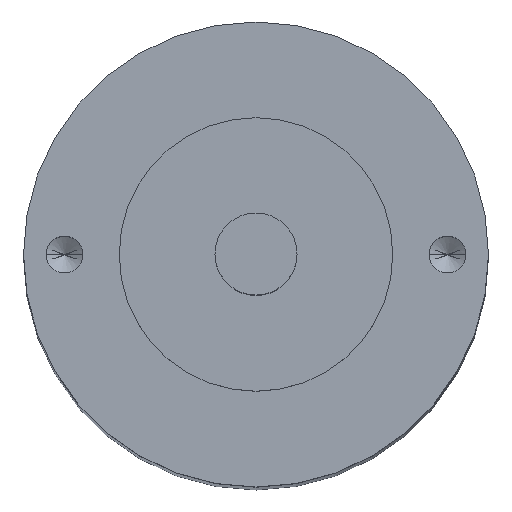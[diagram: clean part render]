
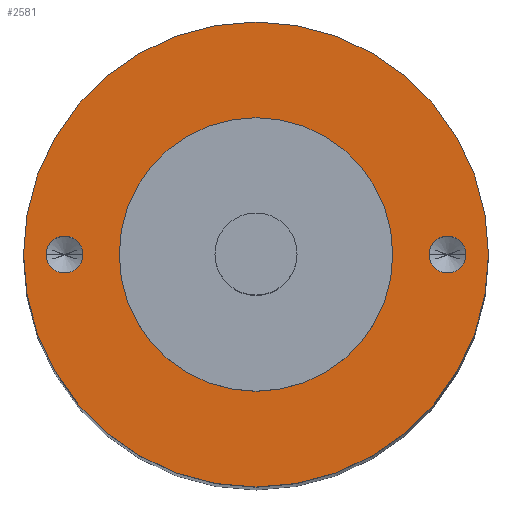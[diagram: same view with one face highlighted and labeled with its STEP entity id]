
A CAD part, top view. The second image highlights one B-rep face of the part: STEP entity #2581.
In plain terms, the highlighted planar face has unit normal (0, 0, 1).
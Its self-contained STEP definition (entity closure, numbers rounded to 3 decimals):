
#3 = AXIS2_PLACEMENT_3D ( 'NONE', #2551, #2103, #3071 ) ;
#24 = CIRCLE ( 'NONE', #138, 0.675 ) ;
#36 = DIRECTION ( 'NONE',  ( 0., 0., 1. ) ) ;
#107 = CARTESIAN_POINT ( 'NONE',  ( 0., 5., 0. ) ) ;
#114 = CIRCLE ( 'NONE', #2809, 0.675 ) ;
#138 = AXIS2_PLACEMENT_3D ( 'NONE', #1749, #2727, #1016 ) ;
#242 = DIRECTION ( 'NONE',  ( 0., 1., 0. ) ) ;
#290 = DIRECTION ( 'NONE',  ( 0., 0., -1. ) ) ;
#308 = CIRCLE ( 'NONE', #2089, 0.675 ) ;
#322 = ORIENTED_EDGE ( 'NONE', *, *, #3046, .F. ) ;
#363 = ORIENTED_EDGE ( 'NONE', *, *, #1339, .T. ) ;
#379 = VERTEX_POINT ( 'NONE', #2502 ) ;
#394 = CARTESIAN_POINT ( 'NONE',  ( -7., 0., 0. ) ) ;
#410 = VERTEX_POINT ( 'NONE', #1998 ) ;
#412 = CIRCLE ( 'NONE', #3, 8.5 ) ;
#452 = DIRECTION ( 'NONE',  ( 0., 0., 1. ) ) ;
#460 = CARTESIAN_POINT ( 'NONE',  ( 0., 0., 0. ) ) ;
#539 = VERTEX_POINT ( 'NONE', #2803 ) ;
#590 = EDGE_CURVE ( 'NONE', #1076, #379, #412, .T. ) ;
#682 = DIRECTION ( 'NONE',  ( 0., 1., 0. ) ) ;
#764 = AXIS2_PLACEMENT_3D ( 'NONE', #2298, #1052, #1309 ) ;
#803 = ORIENTED_EDGE ( 'NONE', *, *, #1368, .F. ) ;
#819 = CIRCLE ( 'NONE', #764, 0.675 ) ;
#903 = FACE_BOUND ( 'NONE', #944, .T. ) ;
#944 = EDGE_LOOP ( 'NONE', ( #2948, #1125 ) ) ;
#951 = EDGE_CURVE ( 'NONE', #1329, #410, #819, .T. ) ;
#972 = CIRCLE ( 'NONE', #1737, 8.5 ) ;
#1003 = DIRECTION ( 'NONE',  ( 1., 0., 0. ) ) ;
#1016 = DIRECTION ( 'NONE',  ( 1., 0., 0. ) ) ;
#1052 = DIRECTION ( 'NONE',  ( 0., 0., 1. ) ) ;
#1076 = VERTEX_POINT ( 'NONE', #2004 ) ;
#1120 = AXIS2_PLACEMENT_3D ( 'NONE', #1972, #290, #2946 ) ;
#1125 = ORIENTED_EDGE ( 'NONE', *, *, #2068, .F. ) ;
#1212 = EDGE_LOOP ( 'NONE', ( #803, #1631 ) ) ;
#1265 = VERTEX_POINT ( 'NONE', #1849 ) ;
#1278 = AXIS2_PLACEMENT_3D ( 'NONE', #1920, #2894, #242 ) ;
#1309 = DIRECTION ( 'NONE',  ( 1., 0., 0. ) ) ;
#1329 = VERTEX_POINT ( 'NONE', #1865 ) ;
#1339 = EDGE_CURVE ( 'NONE', #539, #2443, #1789, .T. ) ;
#1368 = EDGE_CURVE ( 'NONE', #379, #1076, #972, .T. ) ;
#1433 = CARTESIAN_POINT ( 'NONE',  ( -7., 0., 0. ) ) ;
#1440 = DIRECTION ( 'NONE',  ( 0., 0., -1. ) ) ;
#1531 = AXIS2_PLACEMENT_3D ( 'NONE', #2092, #1866, #2363 ) ;
#1630 = CARTESIAN_POINT ( 'NONE',  ( -7.675, 0., 0. ) ) ;
#1631 = ORIENTED_EDGE ( 'NONE', *, *, #590, .F. ) ;
#1644 = FACE_OUTER_BOUND ( 'NONE', #1212, .T. ) ;
#1737 = AXIS2_PLACEMENT_3D ( 'NONE', #460, #1440, #682 ) ;
#1749 = CARTESIAN_POINT ( 'NONE',  ( 7., 0., 0. ) ) ;
#1789 = CIRCLE ( 'NONE', #1278, 5. ) ;
#1808 = ORIENTED_EDGE ( 'NONE', *, *, #951, .F. ) ;
#1825 = EDGE_LOOP ( 'NONE', ( #322, #1808 ) ) ;
#1849 = CARTESIAN_POINT ( 'NONE',  ( -6.325, 0., 0. ) ) ;
#1865 = CARTESIAN_POINT ( 'NONE',  ( 6.325, 0., 0. ) ) ;
#1866 = DIRECTION ( 'NONE',  ( 0., 0., 1. ) ) ;
#1920 = CARTESIAN_POINT ( 'NONE',  ( 0., 0., 0. ) ) ;
#1972 = CARTESIAN_POINT ( 'NONE',  ( 0., 0., 0. ) ) ;
#1998 = CARTESIAN_POINT ( 'NONE',  ( 7.675, 0., 0. ) ) ;
#2004 = CARTESIAN_POINT ( 'NONE',  ( 0., -8.5, 0. ) ) ;
#2068 = EDGE_CURVE ( 'NONE', #2112, #1265, #114, .T. ) ;
#2089 = AXIS2_PLACEMENT_3D ( 'NONE', #1433, #36, #1003 ) ;
#2092 = CARTESIAN_POINT ( 'NONE',  ( 0., 5., 0. ) ) ;
#2103 = DIRECTION ( 'NONE',  ( 0., 0., -1. ) ) ;
#2112 = VERTEX_POINT ( 'NONE', #1630 ) ;
#2208 = ORIENTED_EDGE ( 'NONE', *, *, #2269, .T. ) ;
#2244 = EDGE_CURVE ( 'NONE', #1265, #2112, #308, .T. ) ;
#2269 = EDGE_CURVE ( 'NONE', #2443, #539, #2500, .T. ) ;
#2298 = CARTESIAN_POINT ( 'NONE',  ( 7., 0., 0. ) ) ;
#2318 = FACE_BOUND ( 'NONE', #3038, .T. ) ;
#2363 = DIRECTION ( 'NONE',  ( 0., -1., 0. ) ) ;
#2365 = DIRECTION ( 'NONE',  ( 1., 0., 0. ) ) ;
#2443 = VERTEX_POINT ( 'NONE', #107 ) ;
#2500 = CIRCLE ( 'NONE', #1120, 5. ) ;
#2502 = CARTESIAN_POINT ( 'NONE',  ( 0., 8.5, 0. ) ) ;
#2551 = CARTESIAN_POINT ( 'NONE',  ( 0., 0., 0. ) ) ;
#2581 = ADVANCED_FACE ( 'NONE', ( #903, #3079, #2318, #1644 ), #2838, .T. ) ;
#2727 = DIRECTION ( 'NONE',  ( 0., 0., 1. ) ) ;
#2803 = CARTESIAN_POINT ( 'NONE',  ( 0., -5., 0. ) ) ;
#2809 = AXIS2_PLACEMENT_3D ( 'NONE', #394, #452, #2365 ) ;
#2838 = PLANE ( 'NONE',  #1531 ) ;
#2894 = DIRECTION ( 'NONE',  ( 0., 0., -1. ) ) ;
#2946 = DIRECTION ( 'NONE',  ( 0., 1., 0. ) ) ;
#2948 = ORIENTED_EDGE ( 'NONE', *, *, #2244, .F. ) ;
#3038 = EDGE_LOOP ( 'NONE', ( #2208, #363 ) ) ;
#3046 = EDGE_CURVE ( 'NONE', #410, #1329, #24, .T. ) ;
#3071 = DIRECTION ( 'NONE',  ( 0., 1., 0. ) ) ;
#3079 = FACE_BOUND ( 'NONE', #1825, .T. ) ;
